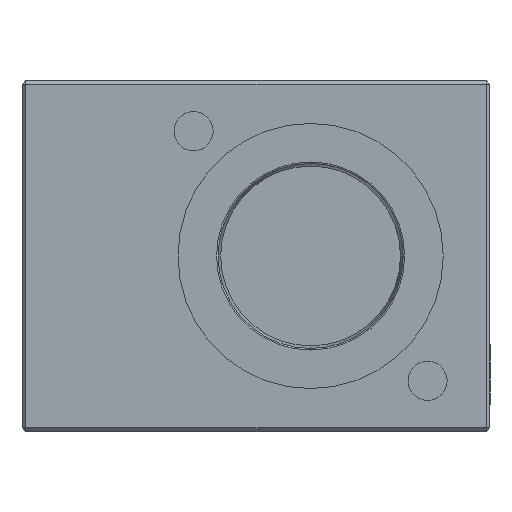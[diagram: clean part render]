
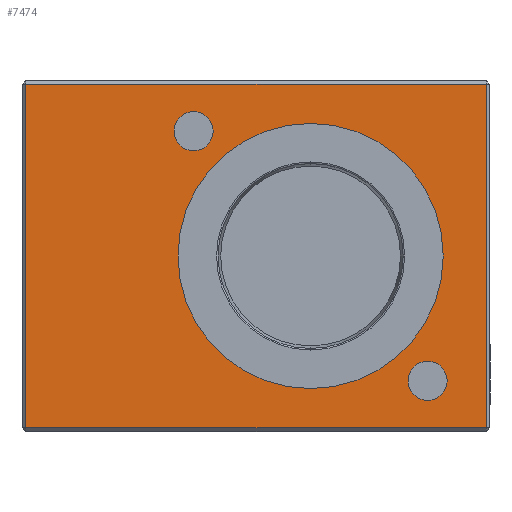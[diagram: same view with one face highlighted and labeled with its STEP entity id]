
A CAD part, left-side view. The second image highlights one B-rep face of the part: STEP entity #7474.
In plain terms, the highlighted planar face has unit normal (-1, 0, 0).
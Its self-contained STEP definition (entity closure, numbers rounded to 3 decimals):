
#117 = EDGE_LOOP ( 'NONE', ( #4774, #4580, #4160, #12547 ) ) ;
#681 = EDGE_LOOP ( 'NONE', ( #12905, #2395 ) ) ;
#788 = VERTEX_POINT ( 'NONE', #4893 ) ;
#1018 = EDGE_LOOP ( 'NONE', ( #8346, #13654 ) ) ;
#1221 = AXIS2_PLACEMENT_3D ( 'NONE', #8524, #8508, #8507 ) ;
#1727 = CIRCLE ( 'NONE', #8833, 2.5 ) ;
#1863 = AXIS2_PLACEMENT_3D ( 'NONE', #13492, #13483, #13480 ) ;
#1904 = CARTESIAN_POINT ( 'NONE',  ( 0., -22., -18.5 ) ) ;
#1980 = AXIS2_PLACEMENT_3D ( 'NONE', #9509, #9499, #9479 ) ;
#1982 = CARTESIAN_POINT ( 'NONE',  ( 0., -7., -17. ) ) ;
#2049 = LINE ( 'NONE', #12866, #7815 ) ;
#2172 = AXIS2_PLACEMENT_3D ( 'NONE', #9849, #9835, #9832 ) ;
#2366 = ORIENTED_EDGE ( 'NONE', *, *, #12551, .F. ) ;
#2395 = ORIENTED_EDGE ( 'NONE', *, *, #7687, .F. ) ;
#2509 = AXIS2_PLACEMENT_3D ( 'NONE', #14213, #14177, #14176 ) ;
#2580 = FACE_BOUND ( 'NONE', #681, .T. ) ;
#2584 = AXIS2_PLACEMENT_3D ( 'NONE', #14312, #14297, #14281 ) ;
#2639 = LINE ( 'NONE', #2721, #7173 ) ;
#2721 = CARTESIAN_POINT ( 'NONE',  ( 0., 29.5, -22.5 ) ) ;
#2775 = FACE_BOUND ( 'NONE', #1018, .T. ) ;
#2863 = DIRECTION ( 'NONE',  ( 0., 0., -1. ) ) ;
#2878 = DIRECTION ( 'NONE',  ( 0., 0., 1. ) ) ;
#2895 = DIRECTION ( 'NONE',  ( -1., 0., 0. ) ) ;
#2907 = CARTESIAN_POINT ( 'NONE',  ( 0., 8., 16. ) ) ;
#3295 = FACE_BOUND ( 'NONE', #14230, .T. ) ;
#3828 = CARTESIAN_POINT ( 'NONE',  ( 0., 29.5, -22. ) ) ;
#3979 = VECTOR ( 'NONE', #5420, 1000. ) ;
#4066 = EDGE_CURVE ( 'NONE', #12320, #8280, #2639, .T. ) ;
#4160 = ORIENTED_EDGE ( 'NONE', *, *, #4066, .T. ) ;
#4580 = ORIENTED_EDGE ( 'NONE', *, *, #11867, .T. ) ;
#4615 = VERTEX_POINT ( 'NONE', #1982 ) ;
#4774 = ORIENTED_EDGE ( 'NONE', *, *, #13239, .T. ) ;
#4893 = CARTESIAN_POINT ( 'NONE',  ( 0., -29.5, 22. ) ) ;
#4986 = EDGE_CURVE ( 'NONE', #4615, #8995, #5531, .T. ) ;
#5420 = DIRECTION ( 'NONE',  ( 0., 0., 1. ) ) ;
#5531 = CIRCLE ( 'NONE', #2172, 17. ) ;
#6068 = EDGE_CURVE ( 'NONE', #7937, #7399, #1727, .T. ) ;
#6200 = CARTESIAN_POINT ( 'NONE',  ( 0., -29.5, 22.5 ) ) ;
#6281 = DIRECTION ( 'NONE',  ( 0., 1., 0. ) ) ;
#6295 = VERTEX_POINT ( 'NONE', #1904 ) ;
#6543 = CARTESIAN_POINT ( 'NONE',  ( 0., -29.5, -22. ) ) ;
#6602 = CARTESIAN_POINT ( 'NONE',  ( 0., 29.5, 22. ) ) ;
#7017 = CIRCLE ( 'NONE', #2509, 2.5 ) ;
#7173 = VECTOR ( 'NONE', #2863, 1000. ) ;
#7399 = VERTEX_POINT ( 'NONE', #10410 ) ;
#7474 = ADVANCED_FACE ( 'NONE', ( #7521, #3295, #2580, #2775 ), #9601, .T. ) ;
#7521 = FACE_OUTER_BOUND ( 'NONE', #117, .T. ) ;
#7529 = CARTESIAN_POINT ( 'NONE',  ( 0., 8., 13.5 ) ) ;
#7687 = EDGE_CURVE ( 'NONE', #6295, #12609, #11780, .T. ) ;
#7702 = CARTESIAN_POINT ( 'NONE',  ( 0., 30., 22. ) ) ;
#7815 = VECTOR ( 'NONE', #9622, 1000. ) ;
#7937 = VERTEX_POINT ( 'NONE', #7529 ) ;
#8280 = VERTEX_POINT ( 'NONE', #3828 ) ;
#8346 = ORIENTED_EDGE ( 'NONE', *, *, #12433, .F. ) ;
#8507 = DIRECTION ( 'NONE',  ( 0., 0., 1. ) ) ;
#8508 = DIRECTION ( 'NONE',  ( -1., 0., 0. ) ) ;
#8524 = CARTESIAN_POINT ( 'NONE',  ( 0., -22., -16. ) ) ;
#8833 = AXIS2_PLACEMENT_3D ( 'NONE', #2907, #2895, #2878 ) ;
#8885 = ORIENTED_EDGE ( 'NONE', *, *, #6068, .F. ) ;
#8995 = VERTEX_POINT ( 'NONE', #12734 ) ;
#9479 = DIRECTION ( 'NONE',  ( 0., 0., 1. ) ) ;
#9499 = DIRECTION ( 'NONE',  ( -1., 0., 0. ) ) ;
#9509 = CARTESIAN_POINT ( 'NONE',  ( 0., 30., -22.5 ) ) ;
#9601 = PLANE ( 'NONE',  #1980 ) ;
#9622 = DIRECTION ( 'NONE',  ( 0., -1., 0. ) ) ;
#9664 = CIRCLE ( 'NONE', #2584, 17. ) ;
#9695 = LINE ( 'NONE', #7702, #12383 ) ;
#9820 = LINE ( 'NONE', #6200, #3979 ) ;
#9832 = DIRECTION ( 'NONE',  ( 0., 0., 1. ) ) ;
#9835 = DIRECTION ( 'NONE',  ( -1., 0., 0. ) ) ;
#9846 = CIRCLE ( 'NONE', #1863, 2.5 ) ;
#9849 = CARTESIAN_POINT ( 'NONE',  ( 0., -7., 0. ) ) ;
#10410 = CARTESIAN_POINT ( 'NONE',  ( 0., 8., 18.5 ) ) ;
#11780 = CIRCLE ( 'NONE', #1221, 2.5 ) ;
#11867 = EDGE_CURVE ( 'NONE', #788, #12320, #9695, .T. ) ;
#12320 = VERTEX_POINT ( 'NONE', #6602 ) ;
#12383 = VECTOR ( 'NONE', #6281, 1000. ) ;
#12433 = EDGE_CURVE ( 'NONE', #8995, #4615, #9664, .T. ) ;
#12456 = EDGE_CURVE ( 'NONE', #12609, #6295, #7017, .T. ) ;
#12547 = ORIENTED_EDGE ( 'NONE', *, *, #14146, .T. ) ;
#12551 = EDGE_CURVE ( 'NONE', #7399, #7937, #9846, .T. ) ;
#12609 = VERTEX_POINT ( 'NONE', #13509 ) ;
#12734 = CARTESIAN_POINT ( 'NONE',  ( 0., -7., 17. ) ) ;
#12866 = CARTESIAN_POINT ( 'NONE',  ( 0., -30., -22. ) ) ;
#12905 = ORIENTED_EDGE ( 'NONE', *, *, #12456, .F. ) ;
#13191 = VERTEX_POINT ( 'NONE', #6543 ) ;
#13239 = EDGE_CURVE ( 'NONE', #13191, #788, #9820, .T. ) ;
#13480 = DIRECTION ( 'NONE',  ( 0., 0., 1. ) ) ;
#13483 = DIRECTION ( 'NONE',  ( -1., 0., 0. ) ) ;
#13492 = CARTESIAN_POINT ( 'NONE',  ( 0., 8., 16. ) ) ;
#13509 = CARTESIAN_POINT ( 'NONE',  ( 0., -22., -13.5 ) ) ;
#13654 = ORIENTED_EDGE ( 'NONE', *, *, #4986, .F. ) ;
#14146 = EDGE_CURVE ( 'NONE', #8280, #13191, #2049, .T. ) ;
#14176 = DIRECTION ( 'NONE',  ( 0., 0., 1. ) ) ;
#14177 = DIRECTION ( 'NONE',  ( -1., 0., 0. ) ) ;
#14213 = CARTESIAN_POINT ( 'NONE',  ( 0., -22., -16. ) ) ;
#14230 = EDGE_LOOP ( 'NONE', ( #2366, #8885 ) ) ;
#14281 = DIRECTION ( 'NONE',  ( 0., 0., 1. ) ) ;
#14297 = DIRECTION ( 'NONE',  ( -1., 0., 0. ) ) ;
#14312 = CARTESIAN_POINT ( 'NONE',  ( 0., -7., 0. ) ) ;
